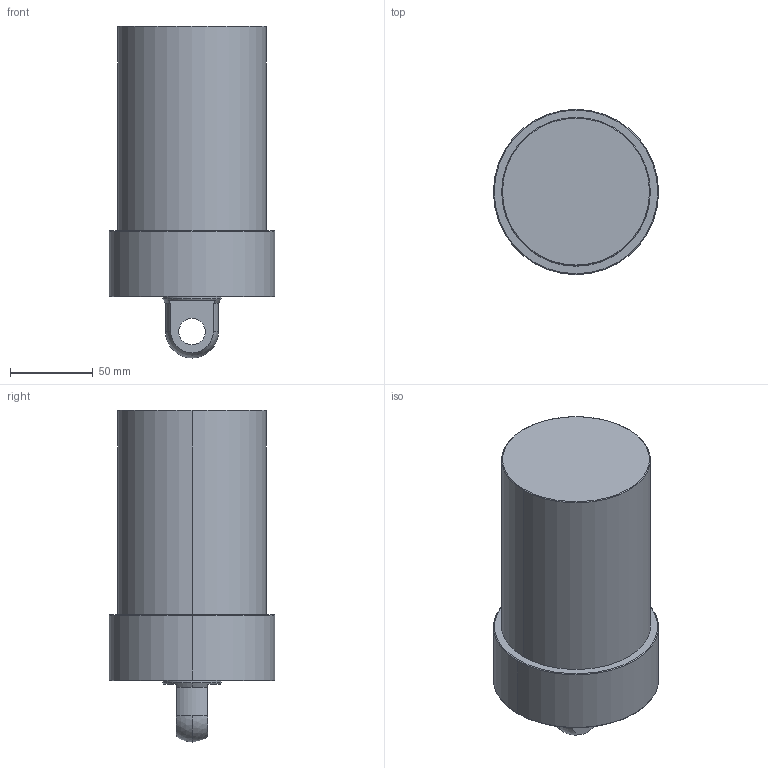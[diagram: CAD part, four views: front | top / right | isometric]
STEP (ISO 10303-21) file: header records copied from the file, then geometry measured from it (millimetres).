
FILE_DESCRIPTION (( 'STEP AP203' ), '1' );
FILE_NAME ('CLLU-090GP-080.STEP', '2020-01-15T01:42:20', ( '' ), ( '' ), 'SwSTEP 2.0', 'SolidWorks 2015', '' );
FILE_SCHEMA (( 'CONFIG_CONTROL_DESIGN' ));
Length unit declared in the file: millimetre
Products named in the file (1): CLLU-090GP-080
Bounding box: 100 x 100 x 201 mm (x, y, z)
Volume: 1112016.1 mm3; surface area: 69515.5 mm2
Topology: 1 solids, 1 shells, 58 faces, 131 edges, 75 vertices
Faces by surface type: cylinder 23, cone 18, plane 9, torus 6, sphere 2
Entity records: 1658 total; most frequent: DIRECTION 311, CARTESIAN_POINT 269, ORIENTED_EDGE 246, AXIS2_PLACEMENT_3D 133, EDGE_CURVE 123, VERTEX_POINT 75, CIRCLE 74, EDGE_LOOP 68
